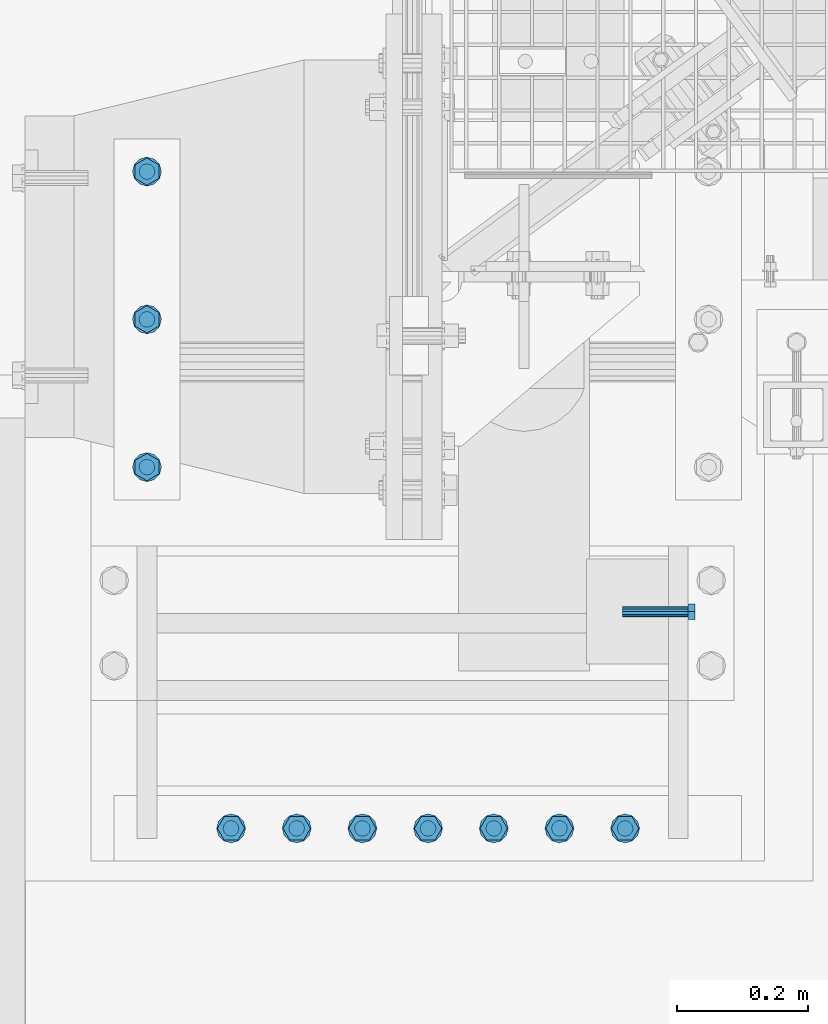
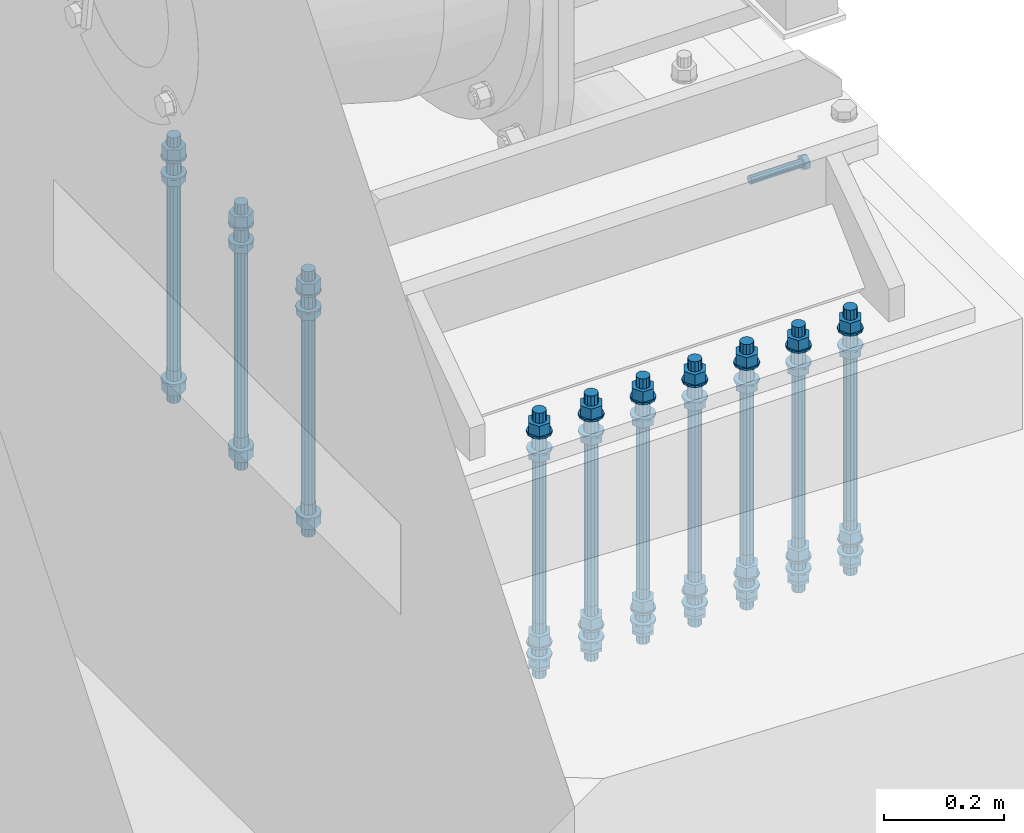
# One storey, part 3 of 1530: 6 mechanical fasteners.
"""IFC2X3 building model written with IfcOpenShell, lengths in millimetres."""

from ifc_helpers import new_model, si_unit, frame, origin_with_axes, place, context, subcontext, project, spatial, faceted_brep, source, transform, mapped, material, type_object, element, save


model = new_model("IFC2X3")

# Units and contexts
model_context = context("Model", 3, precision=1e-05, world=origin_with_axes())
body_context = subcontext(model_context, "Body", "Model", "MODEL_VIEW")
ifc_project = project(units=[si_unit("LENGTHUNIT", "METRE", prefix="MILLI"), si_unit("AREAUNIT", "SQUARE_METRE"), si_unit("VOLUMEUNIT", "CUBIC_METRE"), si_unit("MASSUNIT", "GRAM", prefix="KILO"), si_unit("TIMEUNIT", "SECOND"), si_unit("PLANEANGLEUNIT", "RADIAN"), si_unit("SOLIDANGLEUNIT", "STERADIAN"), si_unit("THERMODYNAMICTEMPERATUREUNIT", "DEGREE_CELSIUS"), si_unit("LUMINOUSINTENSITYUNIT", "LUMEN")], contexts=[model_context])

# Site, building, storey
site_placement = place(None, origin_with_axes())
site = spatial("IfcSite", under=ifc_project, at=site_placement, Name="Brattvåg", CompositionType="ELEMENT")
building_placement = place(site_placement, origin_with_axes())
building = spatial("IfcBuilding", under=site, at=building_placement, Name="Undefined", CompositionType="ELEMENT")
storey_placement = place(building_placement, origin_with_axes())
storey = spatial("IfcBuildingStorey", under=building, at=storey_placement, Name="Undefined", CompositionType="ELEMENT", Elevation=0.0)

# Mechanical fasteners
ifc_material = material(Name="8")
mechanical_fastener_type = type_object("IfcMechanicalFastenerType", Name="Bolt assembly")
shared_shape_1 = source(origin_with_axes(), body_context, "Body", "Brep", [
    faceted_brep([(20.7846096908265, -39.0003051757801, 0.0), (10.3923048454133, -39.0003051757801, 18.0), (-10.3923048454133, -39.0003051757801, 18.0), (-20.7846096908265, -39.0003051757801, 2.54538057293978e-15), (-10.3923048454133, -39.0003051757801, -18.0), (10.3923048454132, -39.0003051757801, -18.0), (10.3923048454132, -24.0003051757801, -18.0), (-10.3923048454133, -24.0003051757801, -18.0), (-20.7846096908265, -24.0003051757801, 2.54538057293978e-15), (-10.3923048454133, -24.0003051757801, 18.0), (10.3923048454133, -24.0003051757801, 18.0), (20.7846096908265, -24.0003051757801, 0.0), (12.0, -24.0003051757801, 0.0), (10.3923048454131, -24.0003051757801, 6.00000000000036), (5.99999999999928, -24.0003051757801, 10.3923048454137), (-1.24360317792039e-12, -24.0003051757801, 12.0), (-6.00000000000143, -24.0003051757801, 10.3923048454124), (-10.3923048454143, -24.0003051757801, 5.99999999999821), (-12.0, -24.0003051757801, -2.48720635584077e-12), (-10.3923048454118, -24.0003051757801, -6.00000000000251), (-5.99999999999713, -24.0003051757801, -10.3923048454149), (3.71748685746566e-12, -24.0003051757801, -12.0), (6.00000000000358, -24.0003051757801, -10.3923048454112), (10.3923048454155, -24.0003051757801, -5.99999999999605), (10.3923048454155, 45.9996948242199, -5.99999999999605), (6.00000000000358, 45.9996948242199, -10.3923048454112), (3.71748685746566e-12, 45.9996948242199, -12.0), (-5.99999999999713, 45.9996948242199, -10.3923048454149), (-10.3923048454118, 45.9996948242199, -6.00000000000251), (-12.0, 45.9996948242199, -2.48720635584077e-12), (-10.3923048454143, 45.9996948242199, 5.99999999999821), (-6.00000000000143, 45.9996948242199, 10.3923048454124), (-1.24360317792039e-12, 45.9996948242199, 12.0), (5.99999999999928, 45.9996948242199, 10.3923048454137), (10.3923048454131, 45.9996948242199, 6.00000000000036), (12.0, 45.9996948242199, 0.0), (22.0, -24.0003051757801, 0.0), (19.0525588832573, -24.0003051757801, 11.0000000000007), (10.9999999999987, -24.0003051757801, 19.0525588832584), (-2.27993915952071e-12, -24.0003051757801, 22.0), (-11.0000000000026, -24.0003051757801, 19.0525588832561), (-19.0525588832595, -24.0003051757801, 10.9999999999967), (-22.0, -24.0003051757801, -4.55987831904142e-12), (-19.052558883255, -24.0003051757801, -11.0000000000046), (-10.9999999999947, -24.0003051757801, -19.0525588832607), (6.81539257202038e-12, -24.0003051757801, -22.0), (11.0000000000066, -24.0003051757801, -19.0525588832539), (19.0525588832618, -24.0003051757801, -10.9999999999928), (19.0525588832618, -20.0003051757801, -10.9999999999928), (11.0000000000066, -20.0003051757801, -19.0525588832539), (6.81539257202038e-12, -20.0003051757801, -22.0), (-10.9999999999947, -20.0003051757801, -19.0525588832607), (-19.052558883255, -20.0003051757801, -11.0000000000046), (-22.0, -20.0003051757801, -4.55987831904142e-12), (-19.0525588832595, -20.0003051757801, 10.9999999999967), (-11.0000000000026, -20.0003051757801, 19.0525588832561), (-2.27993915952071e-12, -20.0003051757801, 22.0), (10.9999999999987, -20.0003051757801, 19.0525588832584), (19.0525588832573, -20.0003051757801, 11.0000000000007), (22.0, -20.0003051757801, 0.0), (22.0, -0.000305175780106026, 0.0), (19.0525588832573, -0.000305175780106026, 11.0000000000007), (10.9999999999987, -0.000305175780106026, 19.0525588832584), (-2.27993915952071e-12, -0.000305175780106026, 22.0), (-11.0000000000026, -0.000305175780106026, 19.0525588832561), (-19.0525588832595, -0.000305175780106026, 10.9999999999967), (-22.0, -0.000305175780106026, -4.55987831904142e-12), (-19.052558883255, -0.000305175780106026, -11.0000000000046), (-10.9999999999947, -0.000305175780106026, -19.0525588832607), (6.81539257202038e-12, -0.000305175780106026, -22.0), (11.0000000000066, -0.000305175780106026, -19.0525588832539), (19.0525588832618, -0.000305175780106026, -10.9999999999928), (19.0525588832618, 3.99969482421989, -10.9999999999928), (11.0000000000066, 3.99969482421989, -19.0525588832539), (6.81539257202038e-12, 3.99969482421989, -22.0), (-10.9999999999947, 3.99969482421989, -19.0525588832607), (-19.052558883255, 3.99969482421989, -11.0000000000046), (-22.0, 3.99969482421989, -4.55987831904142e-12), (-19.0525588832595, 3.99969482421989, 10.9999999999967), (-11.0000000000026, 3.99969482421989, 19.0525588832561), (-2.27993915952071e-12, 3.99969482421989, 22.0), (10.9999999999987, 3.99969482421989, 19.0525588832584), (19.0525588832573, 3.99969482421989, 11.0000000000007), (22.0, 3.99969482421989, 0.0), (20.7846096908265, 3.99969482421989, 0.0), (10.3923048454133, 3.99969482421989, 18.0), (-10.3923048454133, 3.99969482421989, 18.0), (-20.7846096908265, 3.99969482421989, 2.54538057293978e-15), (-10.3923048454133, 3.99969482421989, -18.0), (10.3923048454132, 3.99969482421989, -18.0), (10.3923048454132, 25.4996948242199, -18.0), (-10.3923048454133, 25.4996948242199, -18.0), (-20.7846096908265, 25.4996948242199, 2.54538057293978e-15), (-10.3923048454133, 25.4996948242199, 18.0), (10.3923048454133, 25.4996948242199, 18.0), (20.7846096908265, 25.4996948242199, 0.0)], [[[0, 1, 2, 3, 4, 5]], [[6, 7, 8, 9, 10, 11]], [[0, 11, 10, 1]], [[1, 10, 9, 2]], [[2, 9, 8, 3]], [[3, 8, 7, 4]], [[4, 7, 6, 5]], [[5, 6, 11, 0]], [[12, 13, 14, 15, 16, 17, 18, 19, 20, 21, 22, 23]], [[24, 25, 26, 27, 28, 29, 30, 31, 32, 33, 34, 35]], [[12, 35, 34, 13]], [[13, 34, 33, 14]], [[14, 33, 32, 15]], [[15, 32, 31, 16]], [[16, 31, 30, 17]], [[17, 30, 29, 18]], [[18, 29, 28, 19]], [[19, 28, 27, 20]], [[20, 27, 26, 21]], [[21, 26, 25, 22]], [[22, 25, 24, 23]], [[23, 24, 35, 12]], [[36, 37, 38, 39, 40, 41, 42, 43, 44, 45, 46, 47]], [[48, 49, 50, 51, 52, 53, 54, 55, 56, 57, 58, 59]], [[36, 59, 58, 37]], [[37, 58, 57, 38]], [[38, 57, 56, 39]], [[39, 56, 55, 40]], [[40, 55, 54, 41]], [[41, 54, 53, 42]], [[42, 53, 52, 43]], [[43, 52, 51, 44]], [[44, 51, 50, 45]], [[45, 50, 49, 46]], [[46, 49, 48, 47]], [[47, 48, 59, 36]], [[60, 61, 62, 63, 64, 65, 66, 67, 68, 69, 70, 71]], [[72, 73, 74, 75, 76, 77, 78, 79, 80, 81, 82, 83]], [[60, 83, 82, 61]], [[61, 82, 81, 62]], [[62, 81, 80, 63]], [[63, 80, 79, 64]], [[64, 79, 78, 65]], [[65, 78, 77, 66]], [[66, 77, 76, 67]], [[67, 76, 75, 68]], [[68, 75, 74, 69]], [[69, 74, 73, 70]], [[70, 73, 72, 71]], [[71, 72, 83, 60]], [[84, 85, 86, 87, 88, 89]], [[90, 91, 92, 93, 94, 95]], [[84, 95, 94, 85]], [[85, 94, 93, 86]], [[86, 93, 92, 87]], [[87, 92, 91, 88]], [[88, 91, 90, 89]], [[89, 90, 95, 84]]]),
    faceted_brep([(13.0, -20.0003051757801, 0.0), (11.2583302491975, -20.0003051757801, 6.50000000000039), (6.49999999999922, -20.0003051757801, 11.2583302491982), (-1.34723677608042e-12, -20.0003051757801, 13.0), (-6.50000000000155, -20.0003051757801, 11.2583302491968), (-11.2583302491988, -20.0003051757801, 6.49999999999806), (-13.0, -20.0003051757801, -2.69447355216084e-12), (-11.2583302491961, -20.0003051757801, -6.50000000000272), (-6.4999999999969, -20.0003051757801, -11.2583302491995), (4.02727742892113e-12, -20.0003051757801, -13.0), (6.50000000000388, -20.0003051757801, -11.2583302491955), (11.2583302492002, -20.0003051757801, -6.49999999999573), (11.2583302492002, 0.0996948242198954, -6.49999999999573), (6.50000000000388, 0.0996948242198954, -11.2583302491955), (4.02727742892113e-12, 0.0996948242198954, -13.0), (-6.4999999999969, 0.0996948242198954, -11.2583302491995), (-11.2583302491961, 0.0996948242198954, -6.50000000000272), (-13.0, 0.0996948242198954, -2.69447355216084e-12), (-11.2583302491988, 0.0996948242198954, 6.49999999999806), (-6.50000000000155, 0.0996948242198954, 11.2583302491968), (-1.34723677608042e-12, 0.0996948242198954, 13.0), (6.49999999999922, 0.0996948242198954, 11.2583302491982), (11.2583302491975, 0.0996948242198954, 6.50000000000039), (13.0, 0.0996948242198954, 0.0)], [[[0, 1, 2, 3, 4, 5, 6, 7, 8, 9, 10, 11]], [[12, 13, 14, 15, 16, 17, 18, 19, 20, 21, 22, 23]], [[0, 23, 22, 1]], [[1, 22, 21, 2]], [[2, 21, 20, 3]], [[3, 20, 19, 4]], [[4, 19, 18, 5]], [[5, 18, 17, 6]], [[6, 17, 16, 7]], [[7, 16, 15, 8]], [[8, 15, 14, 9]], [[9, 14, 13, 10]], [[10, 13, 12, 11]], [[11, 12, 23, 0]]]),
])
mechanical_fastener_1_placement = place(storey_placement, frame((-310.999443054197, -839.999771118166, -1458.00001144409), z_axis=(0.0, -1.0, 0.0), x_axis=(1.0, 0.0, 0.0)))
element("IfcMechanicalFastener", 1, at=mechanical_fastener_1_placement, inside=storey, type_object=mechanical_fastener_type, material=ifc_material, Name="Bolt assembly", NominalDiameter=24.0, NominalLength=70.0, context=body_context, shape_type="MappedRepresentation", body=[
    mapped(shared_shape_1, transform((0.0, 0.0, 0.0))),
    mapped(shared_shape_1, transform((100.0, 0.0, 0.0))),
    mapped(shared_shape_1, transform((200.0, 0.0, 0.0))),
    mapped(shared_shape_1, transform((300.0, 0.0, 0.0))),
    mapped(shared_shape_1, transform((400.0, 0.0, 0.0))),
    mapped(shared_shape_1, transform((500.0, 0.0, 0.0))),
    mapped(shared_shape_1, transform((600.0, 0.0, 0.0))),
])
shared_shape_2 = source(origin_with_axes(), body_context, "Body", "Brep", [
    faceted_brep([(20.7846096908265, -49.0000000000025, 0.0), (10.3923048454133, -49.0000000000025, 18.0), (-10.3923048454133, -49.0000000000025, 18.0), (-20.7846096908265, -49.0000000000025, 2.54538057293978e-15), (-10.3923048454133, -49.0000000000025, -18.0), (10.3923048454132, -49.0000000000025, -18.0), (10.3923048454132, -34.0000000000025, -18.0), (-10.3923048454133, -34.0000000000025, -18.0), (-20.7846096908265, -34.0000000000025, 2.54538057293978e-15), (-10.3923048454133, -34.0000000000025, 18.0), (10.3923048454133, -34.0000000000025, 18.0), (20.7846096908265, -34.0000000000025, 0.0), (12.0, -34.0000000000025, 0.0), (10.3923048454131, -34.0000000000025, 6.00000000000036), (5.99999999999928, -34.0000000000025, 10.3923048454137), (-1.24360317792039e-12, -34.0000000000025, 12.0), (-6.00000000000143, -34.0000000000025, 10.3923048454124), (-10.3923048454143, -34.0000000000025, 5.99999999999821), (-12.0, -34.0000000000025, -2.48720635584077e-12), (-10.3923048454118, -34.0000000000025, -6.00000000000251), (-5.99999999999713, -34.0000000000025, -10.3923048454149), (3.71748685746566e-12, -34.0000000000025, -12.0), (6.00000000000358, -34.0000000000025, -10.3923048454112), (10.3923048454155, -34.0000000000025, -5.99999999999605), (10.3923048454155, 46.0, -5.99999999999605), (6.00000000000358, 46.0, -10.3923048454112), (3.71748685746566e-12, 46.0, -12.0), (-5.99999999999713, 46.0, -10.3923048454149), (-10.3923048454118, 46.0, -6.00000000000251), (-12.0, 46.0, -2.48720635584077e-12), (-10.3923048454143, 46.0, 5.99999999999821), (-6.00000000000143, 46.0, 10.3923048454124), (-1.24360317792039e-12, 46.0, 12.0), (5.99999999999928, 46.0, 10.3923048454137), (10.3923048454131, 46.0, 6.00000000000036), (12.0, 46.0, 0.0), (22.0, -34.0000000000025, 0.0), (19.0525588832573, -34.0000000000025, 11.0000000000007), (10.9999999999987, -34.0000000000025, 19.0525588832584), (-2.27993915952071e-12, -34.0000000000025, 22.0), (-11.0000000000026, -34.0000000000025, 19.0525588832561), (-19.0525588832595, -34.0000000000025, 10.9999999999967), (-22.0, -34.0000000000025, -4.55987831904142e-12), (-19.052558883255, -34.0000000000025, -11.0000000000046), (-10.9999999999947, -34.0000000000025, -19.0525588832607), (6.81539257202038e-12, -34.0000000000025, -22.0), (11.0000000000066, -34.0000000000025, -19.0525588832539), (19.0525588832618, -34.0000000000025, -10.9999999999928), (19.0525588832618, -30.0000000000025, -10.9999999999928), (11.0000000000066, -30.0000000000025, -19.0525588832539), (6.81539257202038e-12, -30.0000000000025, -22.0), (-10.9999999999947, -30.0000000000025, -19.0525588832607), (-19.052558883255, -30.0000000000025, -11.0000000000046), (-22.0, -30.0000000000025, -4.55987831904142e-12), (-19.0525588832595, -30.0000000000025, 10.9999999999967), (-11.0000000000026, -30.0000000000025, 19.0525588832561), (-2.27993915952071e-12, -30.0000000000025, 22.0), (10.9999999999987, -30.0000000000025, 19.0525588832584), (19.0525588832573, -30.0000000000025, 11.0000000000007), (22.0, -30.0000000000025, 0.0), (22.0, 0.0, 0.0), (19.0525588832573, 0.0, 11.0000000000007), (10.9999999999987, 0.0, 19.0525588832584), (-2.27993915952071e-12, 0.0, 22.0), (-11.0000000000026, 0.0, 19.0525588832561), (-19.0525588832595, 0.0, 10.9999999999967), (-22.0, 0.0, -4.55987831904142e-12), (-19.052558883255, 0.0, -11.0000000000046), (-10.9999999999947, 0.0, -19.0525588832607), (6.81539257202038e-12, 0.0, -22.0), (11.0000000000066, 0.0, -19.0525588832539), (19.0525588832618, 0.0, -10.9999999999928), (19.0525588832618, 4.0, -10.9999999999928), (11.0000000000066, 4.0, -19.0525588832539), (6.81539257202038e-12, 4.0, -22.0), (-10.9999999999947, 4.0, -19.0525588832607), (-19.052558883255, 4.0, -11.0000000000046), (-22.0, 4.0, -4.55987831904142e-12), (-19.0525588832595, 4.0, 10.9999999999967), (-11.0000000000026, 4.0, 19.0525588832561), (-2.27993915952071e-12, 4.0, 22.0), (10.9999999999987, 4.0, 19.0525588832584), (19.0525588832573, 4.0, 11.0000000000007), (22.0, 4.0, 0.0), (20.7846096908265, 4.0, 0.0), (10.3923048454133, 4.0, 18.0), (-10.3923048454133, 4.0, 18.0), (-20.7846096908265, 4.0, 2.54538057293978e-15), (-10.3923048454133, 4.0, -18.0), (10.3923048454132, 4.0, -18.0), (10.3923048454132, 25.5, -18.0), (-10.3923048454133, 25.5, -18.0), (-20.7846096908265, 25.5, 2.54538057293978e-15), (-10.3923048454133, 25.5, 18.0), (10.3923048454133, 25.5, 18.0), (20.7846096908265, 25.5, 0.0)], [[[0, 1, 2, 3, 4, 5]], [[6, 7, 8, 9, 10, 11]], [[0, 11, 10, 1]], [[1, 10, 9, 2]], [[2, 9, 8, 3]], [[3, 8, 7, 4]], [[4, 7, 6, 5]], [[5, 6, 11, 0]], [[12, 13, 14, 15, 16, 17, 18, 19, 20, 21, 22, 23]], [[24, 25, 26, 27, 28, 29, 30, 31, 32, 33, 34, 35]], [[12, 35, 34, 13]], [[13, 34, 33, 14]], [[14, 33, 32, 15]], [[15, 32, 31, 16]], [[16, 31, 30, 17]], [[17, 30, 29, 18]], [[18, 29, 28, 19]], [[19, 28, 27, 20]], [[20, 27, 26, 21]], [[21, 26, 25, 22]], [[22, 25, 24, 23]], [[23, 24, 35, 12]], [[36, 37, 38, 39, 40, 41, 42, 43, 44, 45, 46, 47]], [[48, 49, 50, 51, 52, 53, 54, 55, 56, 57, 58, 59]], [[36, 59, 58, 37]], [[37, 58, 57, 38]], [[38, 57, 56, 39]], [[39, 56, 55, 40]], [[40, 55, 54, 41]], [[41, 54, 53, 42]], [[42, 53, 52, 43]], [[43, 52, 51, 44]], [[44, 51, 50, 45]], [[45, 50, 49, 46]], [[46, 49, 48, 47]], [[47, 48, 59, 36]], [[60, 61, 62, 63, 64, 65, 66, 67, 68, 69, 70, 71]], [[72, 73, 74, 75, 76, 77, 78, 79, 80, 81, 82, 83]], [[60, 83, 82, 61]], [[61, 82, 81, 62]], [[62, 81, 80, 63]], [[63, 80, 79, 64]], [[64, 79, 78, 65]], [[65, 78, 77, 66]], [[66, 77, 76, 67]], [[67, 76, 75, 68]], [[68, 75, 74, 69]], [[69, 74, 73, 70]], [[70, 73, 72, 71]], [[71, 72, 83, 60]], [[84, 85, 86, 87, 88, 89]], [[90, 91, 92, 93, 94, 95]], [[84, 95, 94, 85]], [[85, 94, 93, 86]], [[86, 93, 92, 87]], [[87, 92, 91, 88]], [[88, 91, 90, 89]], [[89, 90, 95, 84]]]),
    faceted_brep([(13.0, -30.0, 0.0), (11.2583302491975, -30.0, 6.50000000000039), (6.49999999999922, -30.0, 11.2583302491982), (-1.34723677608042e-12, -30.0, 13.0), (-6.50000000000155, -30.0, 11.2583302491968), (-11.2583302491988, -30.0, 6.49999999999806), (-13.0, -30.0, -2.69447355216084e-12), (-11.2583302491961, -30.0, -6.50000000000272), (-6.4999999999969, -30.0, -11.2583302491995), (4.02727742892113e-12, -30.0, -13.0), (6.50000000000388, -30.0, -11.2583302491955), (11.2583302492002, -30.0, -6.49999999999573), (11.2583302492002, 0.0999999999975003, -6.49999999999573), (6.50000000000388, 0.0999999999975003, -11.2583302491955), (4.02727742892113e-12, 0.0999999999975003, -13.0), (-6.4999999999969, 0.0999999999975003, -11.2583302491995), (-11.2583302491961, 0.0999999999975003, -6.50000000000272), (-13.0, 0.0999999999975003, -2.69447355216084e-12), (-11.2583302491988, 0.0999999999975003, 6.49999999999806), (-6.50000000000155, 0.0999999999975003, 11.2583302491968), (-1.34723677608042e-12, 0.0999999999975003, 13.0), (6.49999999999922, 0.0999999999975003, 11.2583302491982), (11.2583302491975, 0.0999999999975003, 6.50000000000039), (13.0, 0.0999999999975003, 0.0)], [[[0, 1, 2, 3, 4, 5, 6, 7, 8, 9, 10, 11]], [[12, 13, 14, 15, 16, 17, 18, 19, 20, 21, 22, 23]], [[0, 23, 22, 1]], [[1, 22, 21, 2]], [[2, 21, 20, 3]], [[3, 20, 19, 4]], [[4, 19, 18, 5]], [[5, 18, 17, 6]], [[6, 17, 16, 7]], [[7, 16, 15, 8]], [[8, 15, 14, 9]], [[9, 14, 13, 10]], [[10, 13, 12, 11]], [[11, 12, 23, 0]]]),
])
mechanical_fastener_2_placement = place(storey_placement, frame((-438.999490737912, 160.001182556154, -1028.00001144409), z_axis=(-1.0, 1.99999855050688e-09, 0.0), x_axis=(0.0, -1.0, 0.0)))
element("IfcMechanicalFastener", 2, at=mechanical_fastener_2_placement, inside=storey, type_object=mechanical_fastener_type, material=ifc_material, Name="Bolt assembly", NominalDiameter=24.0, NominalLength=80.0, context=body_context, shape_type="MappedRepresentation", body=[
    mapped(shared_shape_2, transform((0.0, 0.0, 0.0))),
    mapped(shared_shape_2, transform((225.0, 0.0, 0.0))),
    mapped(shared_shape_2, transform((450.0, 0.0, 0.0))),
])
mechanical_fastener_3_placement = place(storey_placement, frame((-310.999443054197, -839.999771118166, -1028.00001144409), z_axis=(0.0, -1.0, 0.0), x_axis=(1.0, 0.0, 0.0)))
element("IfcMechanicalFastener", 3, at=mechanical_fastener_3_placement, inside=storey, type_object=mechanical_fastener_type, material=ifc_material, Name="Bolt assembly", NominalDiameter=24.0, NominalLength=80.0, context=body_context, shape_type="MappedRepresentation", body=[
    mapped(shared_shape_2, transform((0.0, 0.0, 0.0))),
    mapped(shared_shape_2, transform((100.0, 0.0, 0.0))),
    mapped(shared_shape_2, transform((200.0, 0.0, 0.0))),
    mapped(shared_shape_2, transform((300.0, 0.0, 0.0))),
    mapped(shared_shape_2, transform((400.0, 0.0, 0.0))),
    mapped(shared_shape_2, transform((500.0, 0.0, 0.0))),
    mapped(shared_shape_2, transform((600.0, 0.0, 0.0))),
])
shared_shape_3 = source(origin_with_axes(), body_context, "Body", "Brep", [
    faceted_brep([(20.7846096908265, -19.0, 0.0), (10.3923048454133, -19.0, 18.0), (-10.3923048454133, -19.0, 18.0), (-20.7846096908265, -19.0, 2.54538057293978e-15), (-10.3923048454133, -19.0, -18.0), (10.3923048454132, -19.0, -18.0), (10.3923048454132, -4.0, -18.0), (-10.3923048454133, -4.0, -18.0), (-20.7846096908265, -4.0, 2.54538057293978e-15), (-10.3923048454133, -4.0, 18.0), (10.3923048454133, -4.0, 18.0), (20.7846096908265, -4.0, 0.0), (12.0, -4.0, 0.0), (10.3923048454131, -4.0, 6.00000000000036), (5.99999999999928, -4.0, 10.3923048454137), (-1.24360317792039e-12, -4.0, 12.0), (-6.00000000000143, -4.0, 10.3923048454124), (-10.3923048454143, -4.0, 5.99999999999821), (-12.0, -4.0, -2.48720635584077e-12), (-10.3923048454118, -4.0, -6.00000000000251), (-5.99999999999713, -4.0, -10.3923048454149), (3.71748685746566e-12, -4.0, -12.0), (6.00000000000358, -4.0, -10.3923048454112), (10.3923048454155, -4.0, -5.99999999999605), (10.3923048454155, 496.0, -5.99999999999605), (6.00000000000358, 496.0, -10.3923048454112), (3.71748685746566e-12, 496.0, -12.0), (-5.99999999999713, 496.0, -10.3923048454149), (-10.3923048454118, 496.0, -6.00000000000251), (-12.0, 496.0, -2.48720635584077e-12), (-10.3923048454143, 496.0, 5.99999999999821), (-6.00000000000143, 496.0, 10.3923048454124), (-1.24360317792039e-12, 496.0, 12.0), (5.99999999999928, 496.0, 10.3923048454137), (10.3923048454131, 496.0, 6.00000000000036), (12.0, 496.0, 0.0), (22.0, -4.0, 0.0), (19.0525588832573, -4.0, 11.0000000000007), (10.9999999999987, -4.0, 19.0525588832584), (-2.27993915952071e-12, -4.0, 22.0), (-11.0000000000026, -4.0, 19.0525588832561), (-19.0525588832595, -4.0, 10.9999999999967), (-22.0, -4.0, -4.55987831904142e-12), (-19.052558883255, -4.0, -11.0000000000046), (-10.9999999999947, -4.0, -19.0525588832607), (6.81539257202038e-12, -4.0, -22.0), (11.0000000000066, -4.0, -19.0525588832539), (19.0525588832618, -4.0, -10.9999999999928), (19.0525588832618, 0.0, -10.9999999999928), (11.0000000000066, 0.0, -19.0525588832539), (6.81539257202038e-12, 0.0, -22.0), (-10.9999999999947, 0.0, -19.0525588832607), (-19.052558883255, 0.0, -11.0000000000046), (-22.0, 0.0, -4.55987831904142e-12), (-19.0525588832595, 0.0, 10.9999999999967), (-11.0000000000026, 0.0, 19.0525588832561), (-2.27993915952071e-12, 0.0, 22.0), (10.9999999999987, 0.0, 19.0525588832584), (19.0525588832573, 0.0, 11.0000000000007), (22.0, 0.0, 0.0), (22.0, 450.00030517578, 0.0), (19.0525588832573, 450.00030517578, 11.0000000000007), (10.9999999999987, 450.00030517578, 19.0525588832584), (-2.27993915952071e-12, 450.00030517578, 22.0), (-11.0000000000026, 450.00030517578, 19.0525588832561), (-19.0525588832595, 450.00030517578, 10.9999999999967), (-22.0, 450.00030517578, -4.55987831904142e-12), (-19.052558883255, 450.00030517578, -11.0000000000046), (-10.9999999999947, 450.00030517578, -19.0525588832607), (6.81539257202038e-12, 450.00030517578, -22.0), (11.0000000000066, 450.00030517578, -19.0525588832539), (19.0525588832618, 450.00030517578, -10.9999999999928), (19.0525588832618, 454.00030517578, -10.9999999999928), (11.0000000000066, 454.00030517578, -19.0525588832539), (6.81539257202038e-12, 454.00030517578, -22.0), (-10.9999999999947, 454.00030517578, -19.0525588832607), (-19.052558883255, 454.00030517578, -11.0000000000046), (-22.0, 454.00030517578, -4.55987831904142e-12), (-19.0525588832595, 454.00030517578, 10.9999999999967), (-11.0000000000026, 454.00030517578, 19.0525588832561), (-2.27993915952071e-12, 454.00030517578, 22.0), (10.9999999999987, 454.00030517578, 19.0525588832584), (19.0525588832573, 454.00030517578, 11.0000000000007), (22.0, 454.00030517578, 0.0), (20.7846096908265, 454.00030517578, 0.0), (10.3923048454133, 454.00030517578, 18.0), (-10.3923048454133, 454.00030517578, 18.0), (-20.7846096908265, 454.00030517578, 2.54538057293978e-15), (-10.3923048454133, 454.00030517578, -18.0), (10.3923048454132, 454.00030517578, -18.0), (10.3923048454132, 475.50030517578, -18.0), (-10.3923048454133, 475.50030517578, -18.0), (-20.7846096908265, 475.50030517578, 2.54538057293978e-15), (-10.3923048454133, 475.50030517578, 18.0), (10.3923048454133, 475.50030517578, 18.0), (20.7846096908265, 475.50030517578, 0.0)], [[[0, 1, 2, 3, 4, 5]], [[6, 7, 8, 9, 10, 11]], [[0, 11, 10, 1]], [[1, 10, 9, 2]], [[2, 9, 8, 3]], [[3, 8, 7, 4]], [[4, 7, 6, 5]], [[5, 6, 11, 0]], [[12, 13, 14, 15, 16, 17, 18, 19, 20, 21, 22, 23]], [[24, 25, 26, 27, 28, 29, 30, 31, 32, 33, 34, 35]], [[12, 35, 34, 13]], [[13, 34, 33, 14]], [[14, 33, 32, 15]], [[15, 32, 31, 16]], [[16, 31, 30, 17]], [[17, 30, 29, 18]], [[18, 29, 28, 19]], [[19, 28, 27, 20]], [[20, 27, 26, 21]], [[21, 26, 25, 22]], [[22, 25, 24, 23]], [[23, 24, 35, 12]], [[36, 37, 38, 39, 40, 41, 42, 43, 44, 45, 46, 47]], [[48, 49, 50, 51, 52, 53, 54, 55, 56, 57, 58, 59]], [[36, 59, 58, 37]], [[37, 58, 57, 38]], [[38, 57, 56, 39]], [[39, 56, 55, 40]], [[40, 55, 54, 41]], [[41, 54, 53, 42]], [[42, 53, 52, 43]], [[43, 52, 51, 44]], [[44, 51, 50, 45]], [[45, 50, 49, 46]], [[46, 49, 48, 47]], [[47, 48, 59, 36]], [[60, 61, 62, 63, 64, 65, 66, 67, 68, 69, 70, 71]], [[72, 73, 74, 75, 76, 77, 78, 79, 80, 81, 82, 83]], [[60, 83, 82, 61]], [[61, 82, 81, 62]], [[62, 81, 80, 63]], [[63, 80, 79, 64]], [[64, 79, 78, 65]], [[65, 78, 77, 66]], [[66, 77, 76, 67]], [[67, 76, 75, 68]], [[68, 75, 74, 69]], [[69, 74, 73, 70]], [[70, 73, 72, 71]], [[71, 72, 83, 60]], [[84, 85, 86, 87, 88, 89]], [[90, 91, 92, 93, 94, 95]], [[84, 95, 94, 85]], [[85, 94, 93, 86]], [[86, 93, 92, 87]], [[87, 92, 91, 88]], [[88, 91, 90, 89]], [[89, 90, 95, 84]]]),
    faceted_brep([(13.0, 0.0999999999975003, 0.0), (11.2583302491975, 0.0999999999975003, 6.50000000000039), (6.49999999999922, 0.0999999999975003, 11.2583302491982), (-1.34723677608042e-12, 0.0999999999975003, 13.0), (-6.50000000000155, 0.0999999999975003, 11.2583302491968), (-11.2583302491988, 0.0999999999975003, 6.49999999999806), (-13.0, 0.0999999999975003, -2.69447355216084e-12), (-11.2583302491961, 0.0999999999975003, -6.50000000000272), (-6.4999999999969, 0.0999999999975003, -11.2583302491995), (4.02727742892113e-12, 0.0999999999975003, -13.0), (6.50000000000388, 0.0999999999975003, -11.2583302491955), (11.2583302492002, 0.0999999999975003, -6.49999999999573), (11.2583302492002, 30.1, -6.49999999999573), (6.50000000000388, 30.1, -11.2583302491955), (4.02727742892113e-12, 30.1, -13.0), (-6.4999999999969, 30.1, -11.2583302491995), (-11.2583302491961, 30.1, -6.50000000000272), (-13.0, 30.1, -2.69447355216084e-12), (-11.2583302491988, 30.1, 6.49999999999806), (-6.50000000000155, 30.1, 11.2583302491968), (-1.34723677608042e-12, 30.1, 13.0), (6.49999999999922, 30.1, 11.2583302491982), (11.2583302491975, 30.1, 6.50000000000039), (13.0, 30.1, 0.0), (13.0, 429.90030517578, 0.0), (11.2583302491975, 429.90030517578, 6.50000000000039), (6.49999999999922, 429.90030517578, 11.2583302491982), (-1.34723677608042e-12, 429.90030517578, 13.0), (-6.50000000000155, 429.90030517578, 11.2583302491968), (-11.2583302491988, 429.90030517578, 6.49999999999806), (-13.0, 429.90030517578, -2.69447355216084e-12), (-11.2583302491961, 429.90030517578, -6.50000000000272), (-6.4999999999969, 429.90030517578, -11.2583302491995), (4.02727742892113e-12, 429.90030517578, -13.0), (6.50000000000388, 429.90030517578, -11.2583302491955), (11.2583302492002, 429.90030517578, -6.49999999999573), (11.2583302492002, 450.00030517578, -6.49999999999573), (6.50000000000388, 450.00030517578, -11.2583302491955), (4.02727742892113e-12, 450.00030517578, -13.0), (-6.4999999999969, 450.00030517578, -11.2583302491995), (-11.2583302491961, 450.00030517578, -6.50000000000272), (-13.0, 450.00030517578, -2.69447355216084e-12), (-11.2583302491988, 450.00030517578, 6.49999999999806), (-6.50000000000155, 450.00030517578, 11.2583302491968), (-1.34723677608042e-12, 450.00030517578, 13.0), (6.49999999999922, 450.00030517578, 11.2583302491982), (11.2583302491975, 450.00030517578, 6.50000000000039), (13.0, 450.00030517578, 0.0)], [[[0, 1, 2, 3, 4, 5, 6, 7, 8, 9, 10, 11]], [[12, 13, 14, 15, 16, 17, 18, 19, 20, 21, 22, 23]], [[0, 23, 22, 1]], [[1, 22, 21, 2]], [[2, 21, 20, 3]], [[3, 20, 19, 4]], [[4, 19, 18, 5]], [[5, 18, 17, 6]], [[6, 17, 16, 7]], [[7, 16, 15, 8]], [[8, 15, 14, 9]], [[9, 14, 13, 10]], [[10, 13, 12, 11]], [[11, 12, 23, 0]], [[24, 25, 26, 27, 28, 29, 30, 31, 32, 33, 34, 35]], [[36, 37, 38, 39, 40, 41, 42, 43, 44, 45, 46, 47]], [[24, 47, 46, 25]], [[25, 46, 45, 26]], [[26, 45, 44, 27]], [[27, 44, 43, 28]], [[28, 43, 42, 29]], [[29, 42, 41, 30]], [[30, 41, 40, 31]], [[31, 40, 39, 32]], [[32, 39, 38, 33]], [[33, 38, 37, 34]], [[34, 37, 36, 35]], [[35, 36, 47, 24]]]),
])
mechanical_fastener_4_placement = place(storey_placement, frame((-438.999490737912, 160.001182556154, -1028.00001144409), z_axis=(1.0, 0.0, 0.0), x_axis=(0.0, -1.0, 0.0)))
element("IfcMechanicalFastener", 4, at=mechanical_fastener_4_placement, inside=storey, type_object=mechanical_fastener_type, material=ifc_material, Name="Bolt assembly", NominalDiameter=24.0, NominalLength=500.0, context=body_context, shape_type="MappedRepresentation", body=[
    mapped(shared_shape_3, transform((0.0, 0.0, 0.0))),
    mapped(shared_shape_3, transform((225.0, 0.0, 0.0))),
    mapped(shared_shape_3, transform((450.0, 0.0, 0.0))),
])
mechanical_fastener_5_placement = place(storey_placement, frame((-310.999443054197, -839.999771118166, -1028.00001144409), z_axis=(0.0, 1.0, 0.0), x_axis=(1.0, 0.0, 0.0)))
element("IfcMechanicalFastener", 5, at=mechanical_fastener_5_placement, inside=storey, type_object=mechanical_fastener_type, material=ifc_material, Name="Bolt assembly", NominalDiameter=24.0, NominalLength=500.0, context=body_context, shape_type="MappedRepresentation", body=[
    mapped(shared_shape_3, transform((0.0, 0.0, 0.0))),
    mapped(shared_shape_3, transform((100.0, 0.0, 0.0))),
    mapped(shared_shape_3, transform((200.0, 0.0, 0.0))),
    mapped(shared_shape_3, transform((300.0, 0.0, 0.0))),
    mapped(shared_shape_3, transform((400.0, 0.0, 0.0))),
    mapped(shared_shape_3, transform((500.0, 0.0, 0.0))),
    mapped(shared_shape_3, transform((600.0, 0.0, 0.0))),
])
shared_shape_4 = source(origin_with_axes(), body_context, "Body", "Brep", [
    faceted_brep([(13.856406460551, -10.56, 0.0), (6.92820323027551, -10.56, 12.0), (-6.92820323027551, -10.56, 12.0), (-13.856406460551, -10.56, 1.69692038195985e-15), (-6.92820323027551, -10.56, -12.0), (6.9282032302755, -10.56, -12.0), (6.9282032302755, 0.0, -12.0), (-6.92820323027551, 0.0, -12.0), (-13.856406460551, 0.0, 1.69692038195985e-15), (-6.92820323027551, 0.0, 12.0), (6.92820323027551, 0.0, 12.0), (13.856406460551, 0.0, 0.0), (8.0, 0.0, 0.0), (6.92820323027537, 0.0, 4.00000000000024), (3.99999999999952, 0.0, 6.92820323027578), (-8.29068785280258e-13, 0.0, 8.0), (-4.00000000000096, 0.0, 6.92820323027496), (-6.9282032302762, 0.0, 3.99999999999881), (-8.0, 0.0, -1.65813757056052e-12), (-6.92820323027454, 0.0, -4.00000000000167), (-3.99999999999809, 0.0, -6.92820323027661), (2.47832457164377e-12, 0.0, -8.0), (4.00000000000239, 0.0, -6.92820323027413), (6.92820323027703, 0.0, -3.99999999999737), (6.92820323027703, 100.0, -3.99999999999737), (4.00000000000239, 100.0, -6.92820323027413), (2.47832457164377e-12, 100.0, -8.0), (-3.99999999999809, 100.0, -6.92820323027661), (-6.92820323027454, 100.0, -4.00000000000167), (-8.0, 100.0, -1.65813757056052e-12), (-6.9282032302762, 100.0, 3.99999999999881), (-4.00000000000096, 100.0, 6.92820323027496), (-8.29068785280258e-13, 100.0, 8.0), (3.99999999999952, 100.0, 6.92820323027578), (6.92820323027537, 100.0, 4.00000000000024), (8.0, 100.0, 0.0)], [[[0, 1, 2, 3, 4, 5]], [[6, 7, 8, 9, 10, 11]], [[0, 11, 10, 1]], [[1, 10, 9, 2]], [[2, 9, 8, 3]], [[3, 8, 7, 4]], [[4, 7, 6, 5]], [[5, 6, 11, 0]], [[12, 13, 14, 15, 16, 17, 18, 19, 20, 21, 22, 23]], [[24, 25, 26, 27, 28, 29, 30, 31, 32, 33, 34, 35]], [[12, 35, 34, 13]], [[13, 34, 33, 14]], [[14, 33, 32, 15]], [[15, 32, 31, 16]], [[16, 31, 30, 17]], [[17, 30, 29, 18]], [[18, 29, 28, 19]], [[19, 28, 27, 20]], [[20, 27, 26, 21]], [[21, 26, 25, 22]], [[22, 25, 24, 23]], [[23, 24, 35, 12]]]),
])
mechanical_fastener_6_placement = place(storey_placement, frame((385.000476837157, -510.00022888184, -923.000011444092), z_axis=(0.0, -1.0, 0.0), x_axis=(0.0, 0.0, 1.0)))
element("IfcMechanicalFastener", 6, at=mechanical_fastener_6_placement, inside=storey, type_object=mechanical_fastener_type, material=ifc_material, Name="Bolt assembly", NominalDiameter=16.0, NominalLength=100.0, context=body_context, shape_type="MappedRepresentation", body=[
    mapped(shared_shape_4, transform((0.0, 0.0, 0.0))),
])

save(model, "model.ifc")
